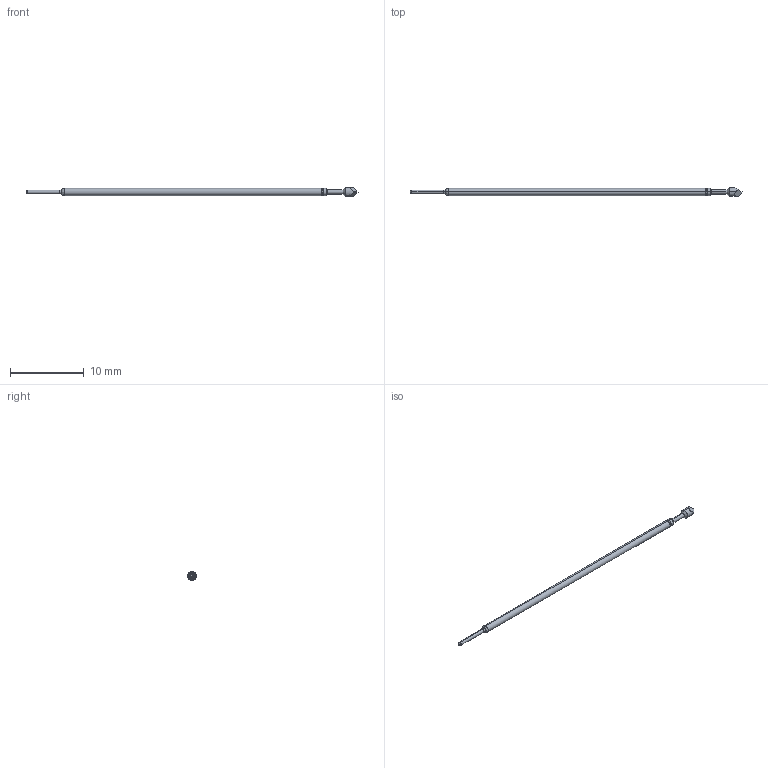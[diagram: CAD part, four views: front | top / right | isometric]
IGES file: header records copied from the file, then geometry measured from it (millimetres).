
Start section: SolidWorks IGES file using analytic representation for surfaces
Global section: file name: C:\Documents and Settings\mrumschlag\Desktop\changes\new\test\T RECD.IGS; native system: SolidWorks 2011; preprocessor: SolidWorks 2011; author: mrumschlag; date: 110630.142316; units: inch
Bounding box: 45.03 x 1.19 x 1.19 mm (x, y, z)
Surface area: 128 mm2 (no closed solid volume)
Topology: 0 solids, 0 shells, 30 faces, 190 edges, 188 vertices
Faces by surface type: revolution 18, bspline 12
